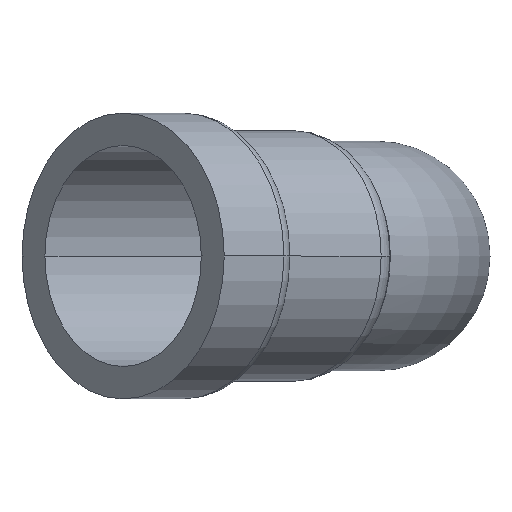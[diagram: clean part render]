
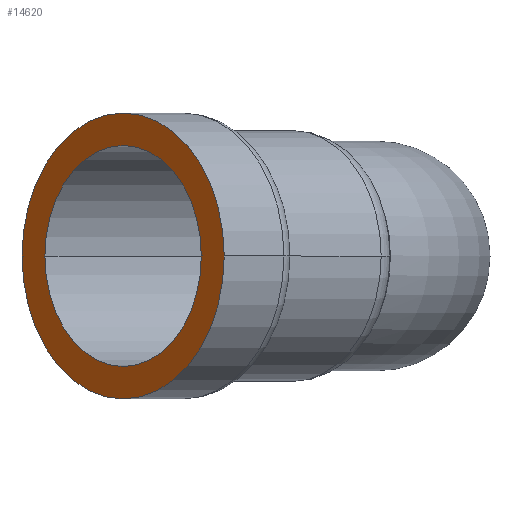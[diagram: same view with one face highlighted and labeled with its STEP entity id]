
A CAD part, left-side view. The second image highlights one B-rep face of the part: STEP entity #14620.
In plain terms, the highlighted planar face has unit normal (-0.707, 0.707, 0).
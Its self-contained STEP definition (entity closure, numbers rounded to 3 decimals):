
#12540=CARTESIAN_POINT('',(-154.05,34.302,
0.));
#12550=VERTEX_POINT('',#12540);
#12580=CARTESIAN_POINT('',(-138.741,49.611,
0.));
#12590=DIRECTION('',(0.707,-0.707,
0.));
#12600=DIRECTION('',(0.707,0.707,
0.));
#12610=AXIS2_PLACEMENT_3D('',#12580,#12590,#12600);
#12620=CIRCLE('',#12610,21.65);
#12630=CARTESIAN_POINT('',(-123.432,64.92,
0.));
#12640=VERTEX_POINT('',#12630);
#12650=EDGE_CURVE('',#12550,#12640,#12620,.T.);
#14240=CARTESIAN_POINT('',(-158.54,29.812,
0.));
#14250=VERTEX_POINT('',#14240);
#14330=CARTESIAN_POINT('',(-118.942,69.41,
0.));
#14340=VERTEX_POINT('',#14330);
#14370=CARTESIAN_POINT('',(-138.741,49.611,
0.));
#14380=DIRECTION('',(0.707,-0.707,
0.));
#14390=DIRECTION('',(0.707,0.707,
0.));
#14400=AXIS2_PLACEMENT_3D('',#14370,#14380,#14390);
#14410=CIRCLE('',#14400,28.);
#14420=EDGE_CURVE('',#14250,#14340,#14410,.T.);
#14470=CARTESIAN_POINT('',(-120.056,68.296,
0.));
#14480=DIRECTION('',(-0.707,0.707,
0.));
#14490=DIRECTION('',(0.707,0.707,
0.));
#14500=AXIS2_PLACEMENT_3D('',#14470,#14480,#14490);
#14510=PLANE('',#14500);
#14520=EDGE_CURVE('',#12640,#12550,#12620,.T.);
#14530=ORIENTED_EDGE('',*,*,#14520,.T.);
#14540=ORIENTED_EDGE('',*,*,#12650,.T.);
#14550=EDGE_LOOP('',(#14540,#14530));
#14560=FACE_BOUND('',#14550,.T.);
#14570=EDGE_CURVE('',#14340,#14250,#14410,.T.);
#14580=ORIENTED_EDGE('',*,*,#14570,.F.);
#14590=ORIENTED_EDGE('',*,*,#14420,.F.);
#14600=EDGE_LOOP('',(#14590,#14580));
#14610=FACE_OUTER_BOUND('',#14600,.T.);
#14620=ADVANCED_FACE('',(#14560,#14610),#14510,.T.);
